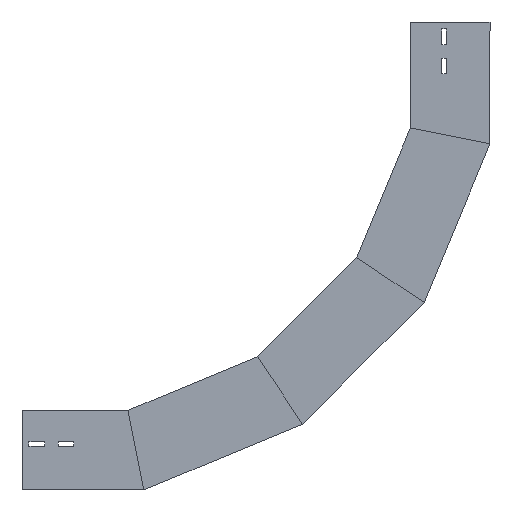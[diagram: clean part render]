
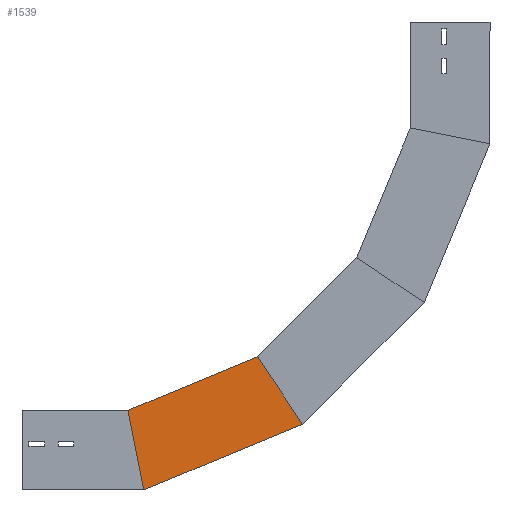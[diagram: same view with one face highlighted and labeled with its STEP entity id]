
A CAD part, left-side view. The second image highlights one B-rep face of the part: STEP entity #1539.
In plain terms, the highlighted planar face has unit normal (-1, 0, 0) as drawn and (1, 0, 0) by its records, which use the part's own axes.
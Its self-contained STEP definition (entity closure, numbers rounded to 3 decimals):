
#52 = CARTESIAN_POINT ( 'NONE',  ( 0., 188.403, -332.969 ) ) ;
#70 = ORIENTED_EDGE ( 'NONE', *, *, #1764, .F. ) ;
#81 = DIRECTION ( 'NONE',  ( -1., 0., 0. ) ) ;
#97 = EDGE_CURVE ( 'NONE', #391, #957, #1226, .T. ) ;
#98 = DIRECTION ( 'NONE',  ( 0., 0., 1. ) ) ;
#118 = VECTOR ( 'NONE', #1075, 1000. ) ;
#144 = AXIS2_PLACEMENT_3D ( 'NONE', #1399, #81, #98 ) ;
#208 = LINE ( 'NONE', #382, #1436 ) ;
#280 = VERTEX_POINT ( 'NONE', #974 ) ;
#313 = CARTESIAN_POINT ( 'NONE',  ( 0., 103.936, -129.048 ) ) ;
#358 = VECTOR ( 'NONE', #887, 1000. ) ;
#378 = ORIENTED_EDGE ( 'NONE', *, *, #97, .T. ) ;
#382 = CARTESIAN_POINT ( 'NONE',  ( 0., 132.464, -370.346 ) ) ;
#391 = VERTEX_POINT ( 'NONE', #881 ) ;
#586 = VERTEX_POINT ( 'NONE', #52 ) ;
#699 = DIRECTION ( 'NONE',  ( 0., -0.831, -0.556 ) ) ;
#774 = CARTESIAN_POINT ( 'NONE',  ( 0., 32.93, -165.55 ) ) ;
#881 = CARTESIAN_POINT ( 'NONE',  ( 0., 0., -172.1 ) ) ;
#887 = DIRECTION ( 'NONE',  ( 0., -0.981, -0.195 ) ) ;
#919 = CARTESIAN_POINT ( 'NONE',  ( 0., 93.03, -396.695 ) ) ;
#957 = VERTEX_POINT ( 'NONE', #919 ) ;
#974 = CARTESIAN_POINT ( 'NONE',  ( 0., 112.5, -149.722 ) ) ;
#993 = EDGE_LOOP ( 'NONE', ( #70, #1227, #378, #1512 ) ) ;
#1067 = LINE ( 'NONE', #313, #1863 ) ;
#1075 = DIRECTION ( 'NONE',  ( 0., 0.383, -0.924 ) ) ;
#1126 = PLANE ( 'NONE',  #144 ) ;
#1226 = LINE ( 'NONE', #1794, #118 ) ;
#1227 = ORIENTED_EDGE ( 'NONE', *, *, #1438, .T. ) ;
#1399 = CARTESIAN_POINT ( 'NONE',  ( 0., 0., -172.1 ) ) ;
#1418 = FACE_OUTER_BOUND ( 'NONE', #993, .T. ) ;
#1436 = VECTOR ( 'NONE', #699, 1000. ) ;
#1438 = EDGE_CURVE ( 'NONE', #280, #391, #1635, .T. ) ;
#1512 = ORIENTED_EDGE ( 'NONE', *, *, #1596, .F. ) ;
#1539 = ADVANCED_FACE ( 'NONE', ( #1418 ), #1126, .F. ) ;
#1596 = EDGE_CURVE ( 'NONE', #586, #957, #208, .T. ) ;
#1624 = DIRECTION ( 'NONE',  ( 0., 0.383, -0.924 ) ) ;
#1635 = LINE ( 'NONE', #774, #358 ) ;
#1764 = EDGE_CURVE ( 'NONE', #280, #586, #1067, .T. ) ;
#1794 = CARTESIAN_POINT ( 'NONE',  ( 0., 0., -172.1 ) ) ;
#1863 = VECTOR ( 'NONE', #1624, 1000. ) ;
